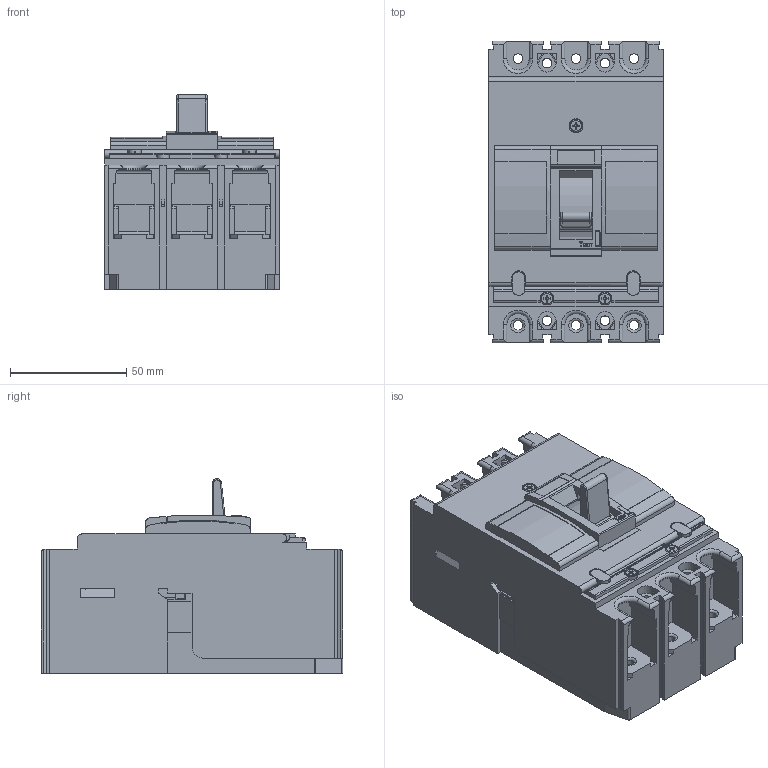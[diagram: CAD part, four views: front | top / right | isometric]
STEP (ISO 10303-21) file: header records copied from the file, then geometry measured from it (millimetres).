
FILE_DESCRIPTION (( 'STEP AP203' ), '1' );
FILE_NAME ('OptiMat E100.STEP', '2022-03-10T08:05:44', ( '' ), ( '' ), 'SwSTEP 2.0', 'SolidWorks 2018', '' );
FILE_SCHEMA (( 'CONFIG_CONTROL_DESIGN' ));
Length unit declared in the file: millimetre
Products named in the file (1): OptiMat E100
Bounding box: 75 x 130 x 83.8 mm (x, y, z)
Volume: 501857.7 mm3; surface area: 76356.8 mm2
Topology: 1 solids, 1 shells, 1685 faces, 4513 edges, 2813 vertices
Faces by surface type: plane 1103, cylinder 419, torus 48, cone 44, sphere 37, bspline 34
Full cylindrical faces by diameter (mm): 2 x2, 4.13 x6, 4.2 x4, 4.3 x4, 5.4 x7, 6 x1, 6.2 x4, 7 x6
Entity records: 52765 total; most frequent: CARTESIAN_POINT 11608, ORIENTED_EDGE 8764, DIRECTION 8200, EDGE_CURVE 4382, LINE 3136, VECTOR 3136, VERTEX_POINT 2784, AXIS2_PLACEMENT_3D 2532
